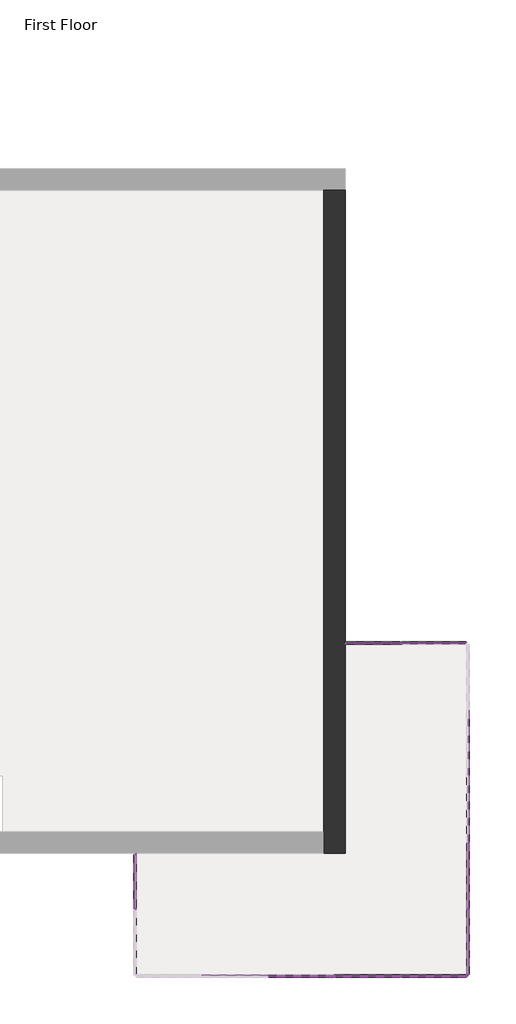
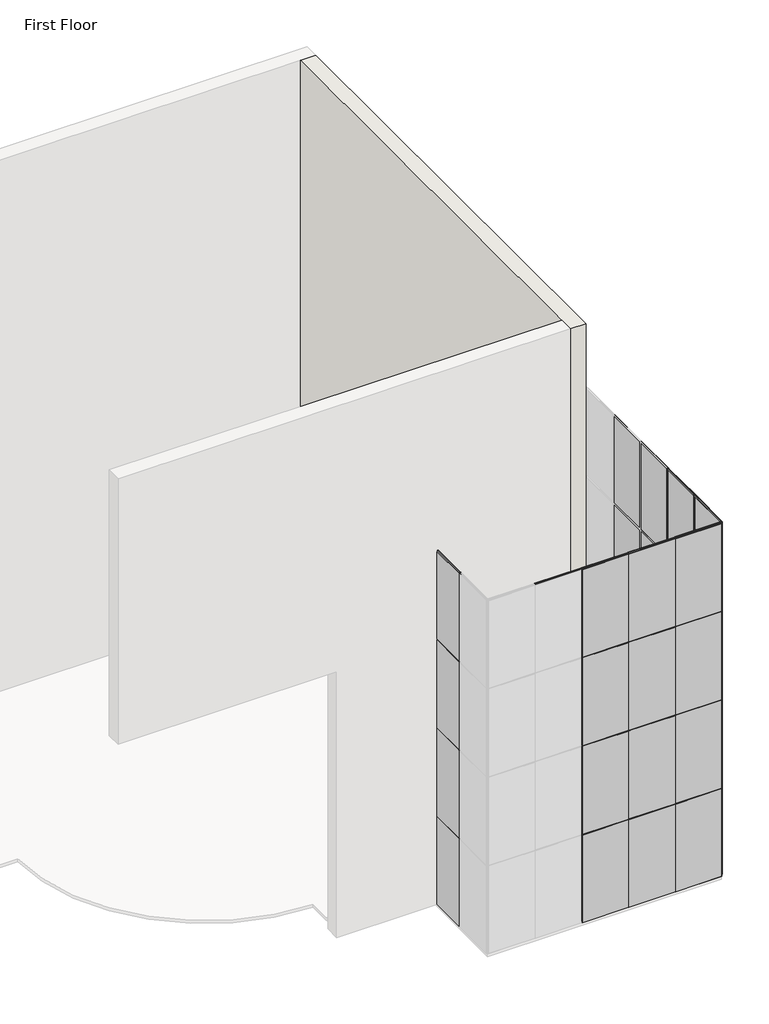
# One storey, part 2 of 4: 82 members, 40 plates, 1 wall.
"""IFC4 building model written with IfcOpenShell, lengths in millimetres."""

from ifc_helpers import new_model, si_unit, origin, place, context, project, spatial, faceted_brep, transform, mapped, element, save
from components import member_40ce1a5c, member_5e617a80, member_0d8d9af5, member_74941792, member_cbdb9076, member_7e523723, member_9fd3d903, member_6604d1e0, member_e0356dda, member_be0b070d, system_panel_glazed_9b7d687a, system_panel_glazed_3ccd4ad1, system_panel_glazed_9a901b4a, system_panel_glazed_ee91e337, system_panel_glazed_2d5e1d3d, system_panel_glazed_37964ea6, system_panel_glazed_a669fc9f, system_panel_glazed_51c864c8

model = new_model("IFC4")

# Units and contexts
model_context = context("Model", 3, world=origin())
ifc_project = project(units=[si_unit("LENGTHUNIT", "METRE", prefix="MILLI")], contexts=[model_context])

# Site, building, storey
site = spatial("IfcSite", under=ifc_project)
building = spatial("IfcBuilding", under=site)
storey = spatial("IfcBuildingStorey", under=building, Name="First Floor", Elevation=0.0)

# Members
placement = place(None, origin())
member_shape = member_40ce1a5c(model_context)
element("IfcMember", 1, ObjectType="Rectangular Mullion : 1\" Square", at=placement, inside=storey, context=model_context, shape_type="MappedRepresentation", body=[
    mapped(member_shape, transform((5418.7693843, -3733.9860776, 3048.0), x_axis=(0.0, 0.0, 1.0), y_axis=(0.0, 1.0, 0.0), z_axis=(-1.0, 0.0, 0.0))),
])
element("IfcMember", 2, ObjectType="Rectangular Mullion : 1\" Square", at=placement, inside=storey, context=model_context, shape_type="MappedRepresentation", body=[
    mapped(member_shape, transform((5418.7693843, -3733.9860776, 6096.0), x_axis=(0.0, 0.0, 1.0), y_axis=(0.0, 1.0, 0.0), z_axis=(-1.0, 0.0, 0.0))),
])
element("IfcMember", 3, ObjectType="Rectangular Mullion : 1\" Square", at=placement, inside=storey, context=model_context, shape_type="MappedRepresentation", body=[
    mapped(member_shape, transform((5418.7693843, -3733.9860776, 9144.0), x_axis=(0.0, 0.0, 1.0), y_axis=(0.0, 1.0, 0.0), z_axis=(-1.0, 0.0, 0.0))),
])
member_2_shape = member_5e617a80(model_context)
element("IfcMember", 4, ObjectType="Rectangular Mullion : 1\" Square", at=placement, inside=storey, context=model_context, shape_type="MappedRepresentation", body=[
    mapped(member_2_shape, transform((8171.4943843, -11353.9860776, 3048.0), x_axis=(0.0, 0.0, 1.0), y_axis=(0.0, -1.0, 0.0), z_axis=(1.0, 0.0, 0.0))),
])
element("IfcMember", 5, ObjectType="Rectangular Mullion : 1\" Square", at=placement, inside=storey, context=model_context, shape_type="MappedRepresentation", body=[
    mapped(member_2_shape, transform((8171.4943843, -11353.9860776, 6096.0), x_axis=(0.0, 0.0, 1.0), y_axis=(0.0, -1.0, 0.0), z_axis=(1.0, 0.0, 0.0))),
])
element("IfcMember", 6, ObjectType="Rectangular Mullion : 1\" Square", at=placement, inside=storey, context=model_context, shape_type="MappedRepresentation", body=[
    mapped(member_2_shape, transform((8171.4943843, -11353.9860776, 9144.0), x_axis=(0.0, 0.0, 1.0), y_axis=(0.0, -1.0, 0.0), z_axis=(1.0, 0.0, 0.0))),
])
element("IfcMember", 7, ObjectType="Rectangular Mullion : 1\" Square", at=placement, inside=storey, context=model_context, shape_type="MappedRepresentation", body=[
    mapped(member_2_shape, transform((8196.8943843, -9842.6860776, 3048.0), x_axis=(0.0, 0.0, 1.0), y_axis=(1.0, 0.0, 0.0), z_axis=(0.0, 1.0, 0.0))),
])
element("IfcMember", 8, ObjectType="Rectangular Mullion : 1\" Square", at=placement, inside=storey, context=model_context, shape_type="MappedRepresentation", body=[
    mapped(member_2_shape, transform((8196.8943843, -9842.6860776, 6096.0), x_axis=(0.0, 0.0, 1.0), y_axis=(1.0, 0.0, 0.0), z_axis=(0.0, 1.0, 0.0))),
])
element("IfcMember", 9, ObjectType="Rectangular Mullion : 1\" Square", at=placement, inside=storey, context=model_context, shape_type="MappedRepresentation", body=[
    mapped(member_2_shape, transform((8196.8943843, -9842.6860776, 9144.0), x_axis=(0.0, 0.0, 1.0), y_axis=(1.0, 0.0, 0.0), z_axis=(0.0, 1.0, 0.0))),
])
element("IfcMember", 10, ObjectType="Rectangular Mullion : 1\" Square", at=placement, inside=storey, context=model_context, shape_type="MappedRepresentation", body=[
    mapped(member_2_shape, transform((6685.5943843, -3733.9860776, 3048.0), x_axis=(0.0, 0.0, 1.0), y_axis=(0.0, 1.0, 0.0), z_axis=(-1.0, 0.0, 0.0))),
])
element("IfcMember", 11, ObjectType="Rectangular Mullion : 1\" Square", at=placement, inside=storey, context=model_context, shape_type="MappedRepresentation", body=[
    mapped(member_2_shape, transform((6685.5943843, -3733.9860776, 6096.0), x_axis=(0.0, 0.0, 1.0), y_axis=(0.0, 1.0, 0.0), z_axis=(-1.0, 0.0, 0.0))),
])
element("IfcMember", 12, ObjectType="Rectangular Mullion : 1\" Square", at=placement, inside=storey, context=model_context, shape_type="MappedRepresentation", body=[
    mapped(member_2_shape, transform((6685.5943843, -3733.9860776, 9144.0), x_axis=(0.0, 0.0, 1.0), y_axis=(0.0, 1.0, 0.0), z_axis=(-1.0, 0.0, 0.0))),
])
member_3_shape = member_0d8d9af5(model_context)
element("IfcMember", 13, ObjectType="Rectangular Mullion : 1\" Square", at=placement, inside=storey, context=model_context, shape_type="MappedRepresentation", body=[
    mapped(member_3_shape, transform((6660.1943843, -3733.9860776, 0.0), x_axis=(0.0, 0.0, -1.0), y_axis=(0.0, 1.0, 0.0), z_axis=(1.0, 0.0, 0.0))),
])
member_4_shape = member_74941792(model_context)
element("IfcMember", 14, ObjectType="Rectangular Mullion : 1\" Square", at=placement, inside=storey, context=model_context, shape_type="MappedRepresentation", body=[
    mapped(member_4_shape, transform((8171.4943843, -11353.9860776, 12192.0), x_axis=(0.0, 0.0, 1.0), y_axis=(0.0, -1.0, 0.0), z_axis=(1.0, 0.0, 0.0))),
])
element("IfcMember", 15, ObjectType="Rectangular Mullion : 1\" Square", at=placement, inside=storey, context=model_context, shape_type="MappedRepresentation", body=[
    mapped(member_4_shape, transform((8196.8943843, -9842.6860776, 12192.0), x_axis=(0.0, 0.0, 1.0), y_axis=(1.0, 0.0, 0.0), z_axis=(0.0, 1.0, 0.0))),
])
element("IfcMember", 16, ObjectType="Rectangular Mullion : 1\" Square", at=placement, inside=storey, context=model_context, shape_type="MappedRepresentation", body=[
    mapped(member_4_shape, transform((6685.5943843, -3733.9860776, 12192.0), x_axis=(0.0, 0.0, 1.0), y_axis=(0.0, 1.0, 0.0), z_axis=(-1.0, 0.0, 0.0))),
])
member_5_shape = member_cbdb9076(model_context)
element("IfcMember", 17, ObjectType="Rectangular Mullion : 1\" Square", at=placement, inside=storey, context=model_context, shape_type="MappedRepresentation", body=[
    mapped(member_5_shape, transform((576.8943843, -9826.8110776, 3048.0), x_axis=(0.0, -1.0, 0.0), y_axis=(-1.0, 0.0, 0.0), z_axis=(0.0, 0.0, -1.0))),
])
element("IfcMember", 18, ObjectType="Rectangular Mullion : 1\" Square", at=placement, inside=storey, context=model_context, shape_type="MappedRepresentation", body=[
    mapped(member_5_shape, transform((576.8943843, -9826.8110776, 6096.0), x_axis=(0.0, -1.0, 0.0), y_axis=(-1.0, 0.0, 0.0), z_axis=(0.0, 0.0, -1.0))),
])
element("IfcMember", 19, ObjectType="Rectangular Mullion : 1\" Square", at=placement, inside=storey, context=model_context, shape_type="MappedRepresentation", body=[
    mapped(member_5_shape, transform((5148.8943843, -11353.9860776, 3048.0), x_axis=(1.0, 0.0, 0.0), y_axis=(0.0, -1.0, 0.0), z_axis=(0.0, 0.0, -1.0))),
])
element("IfcMember", 20, ObjectType="Rectangular Mullion : 1\" Square", at=placement, inside=storey, context=model_context, shape_type="MappedRepresentation", body=[
    mapped(member_5_shape, transform((5148.8943843, -11353.9860776, 6096.0), x_axis=(1.0, 0.0, 0.0), y_axis=(0.0, -1.0, 0.0), z_axis=(0.0, 0.0, -1.0))),
])
element("IfcMember", 21, ObjectType="Rectangular Mullion : 1\" Square", at=placement, inside=storey, context=model_context, shape_type="MappedRepresentation", body=[
    mapped(member_5_shape, transform((6672.8943843, -11353.9860776, 3048.0), x_axis=(1.0, 0.0, 0.0), y_axis=(0.0, -1.0, 0.0), z_axis=(0.0, 0.0, -1.0))),
])
element("IfcMember", 22, ObjectType="Rectangular Mullion : 1\" Square", at=placement, inside=storey, context=model_context, shape_type="MappedRepresentation", body=[
    mapped(member_5_shape, transform((6672.8943843, -11353.9860776, 6096.0), x_axis=(1.0, 0.0, 0.0), y_axis=(0.0, -1.0, 0.0), z_axis=(0.0, 0.0, -1.0))),
])
element("IfcMember", 23, ObjectType="Rectangular Mullion : 1\" Square", at=placement, inside=storey, context=model_context, shape_type="MappedRepresentation", body=[
    mapped(member_5_shape, transform((8196.8943843, -8305.9860776, 6096.0), x_axis=(0.0, 1.0, 0.0), y_axis=(1.0, 0.0, 0.0), z_axis=(0.0, 0.0, -1.0))),
])
element("IfcMember", 24, ObjectType="Rectangular Mullion : 1\" Square", at=placement, inside=storey, context=model_context, shape_type="MappedRepresentation", body=[
    mapped(member_5_shape, transform((8196.8943843, -6781.9860776, 3048.0), x_axis=(0.0, 1.0, 0.0), y_axis=(1.0, 0.0, 0.0), z_axis=(0.0, 0.0, -1.0))),
])
element("IfcMember", 25, ObjectType="Rectangular Mullion : 1\" Square", at=placement, inside=storey, context=model_context, shape_type="MappedRepresentation", body=[
    mapped(member_5_shape, transform((8196.8943843, -9829.9860776, 3048.0), x_axis=(0.0, 1.0, 0.0), y_axis=(1.0, 0.0, 0.0), z_axis=(0.0, 0.0, -1.0))),
])
element("IfcMember", 26, ObjectType="Rectangular Mullion : 1\" Square", at=placement, inside=storey, context=model_context, shape_type="MappedRepresentation", body=[
    mapped(member_5_shape, transform((8196.8943843, -9829.9860776, 6096.0), x_axis=(0.0, 1.0, 0.0), y_axis=(1.0, 0.0, 0.0), z_axis=(0.0, 0.0, -1.0))),
])
element("IfcMember", 27, ObjectType="Rectangular Mullion : 1\" Square", at=placement, inside=storey, context=model_context, shape_type="MappedRepresentation", body=[
    mapped(member_5_shape, transform((8196.8943843, -8305.9860776, 3048.0), x_axis=(0.0, 1.0, 0.0), y_axis=(1.0, 0.0, 0.0), z_axis=(0.0, 0.0, -1.0))),
])
element("IfcMember", 28, ObjectType="Rectangular Mullion : 1\" Square", at=placement, inside=storey, context=model_context, shape_type="MappedRepresentation", body=[
    mapped(member_5_shape, transform((6672.8943843, -3733.9860776, 3048.0), x_axis=(-1.0, 0.0, 0.0), y_axis=(0.0, 1.0, 0.0), z_axis=(0.0, 0.0, -1.0))),
])
element("IfcMember", 29, ObjectType="Rectangular Mullion : 1\" Square", at=placement, inside=storey, context=model_context, shape_type="MappedRepresentation", body=[
    mapped(member_5_shape, transform((6672.8943843, -3733.9860776, 6096.0), x_axis=(-1.0, 0.0, 0.0), y_axis=(0.0, 1.0, 0.0), z_axis=(0.0, 0.0, -1.0))),
])
element("IfcMember", 30, ObjectType="Rectangular Mullion : 1\" Square", at=placement, inside=storey, context=model_context, shape_type="MappedRepresentation", body=[
    mapped(member_5_shape, transform((576.8943843, -9826.8110776, 9144.0), x_axis=(0.0, -1.0, 0.0), y_axis=(-1.0, 0.0, 0.0), z_axis=(0.0, 0.0, -1.0))),
])
element("IfcMember", 31, ObjectType="Rectangular Mullion : 1\" Square", at=placement, inside=storey, context=model_context, shape_type="MappedRepresentation", body=[
    mapped(member_5_shape, transform((5148.8943843, -11353.9860776, 9144.0), x_axis=(1.0, 0.0, 0.0), y_axis=(0.0, -1.0, 0.0), z_axis=(0.0, 0.0, -1.0))),
])
element("IfcMember", 32, ObjectType="Rectangular Mullion : 1\" Square", at=placement, inside=storey, context=model_context, shape_type="MappedRepresentation", body=[
    mapped(member_5_shape, transform((6672.8943843, -11353.9860776, 9144.0), x_axis=(1.0, 0.0, 0.0), y_axis=(0.0, -1.0, 0.0), z_axis=(0.0, 0.0, -1.0))),
])
element("IfcMember", 33, ObjectType="Rectangular Mullion : 1\" Square", at=placement, inside=storey, context=model_context, shape_type="MappedRepresentation", body=[
    mapped(member_5_shape, transform((8196.8943843, -8305.9860776, 9144.0), x_axis=(0.0, 1.0, 0.0), y_axis=(1.0, 0.0, 0.0), z_axis=(0.0, 0.0, -1.0))),
])
element("IfcMember", 34, ObjectType="Rectangular Mullion : 1\" Square", at=placement, inside=storey, context=model_context, shape_type="MappedRepresentation", body=[
    mapped(member_5_shape, transform((8196.8943843, -9829.9860776, 9144.0), x_axis=(0.0, 1.0, 0.0), y_axis=(1.0, 0.0, 0.0), z_axis=(0.0, 0.0, -1.0))),
])
element("IfcMember", 35, ObjectType="Rectangular Mullion : 1\" Square", at=placement, inside=storey, context=model_context, shape_type="MappedRepresentation", body=[
    mapped(member_5_shape, transform((6672.8943843, -3733.9860776, 9144.0), x_axis=(-1.0, 0.0, 0.0), y_axis=(0.0, 1.0, 0.0), z_axis=(0.0, 0.0, -1.0))),
])
element("IfcMember", 36, ObjectType="Rectangular Mullion : 1\" Square", at=placement, inside=storey, context=model_context, shape_type="MappedRepresentation", body=[
    mapped(member_5_shape, transform((576.8943843, -9826.8110776, 0.0), x_axis=(0.0, -1.0, 0.0), y_axis=(-1.0, 0.0, 0.0), z_axis=(0.0, 0.0, -1.0))),
])
element("IfcMember", 37, ObjectType="Rectangular Mullion : 1\" Square", at=placement, inside=storey, context=model_context, shape_type="MappedRepresentation", body=[
    mapped(member_5_shape, transform((6672.8943843, -11353.9860776, 0.0), x_axis=(1.0, 0.0, 0.0), y_axis=(0.0, -1.0, 0.0), z_axis=(0.0, 0.0, -1.0))),
])
element("IfcMember", 38, ObjectType="Rectangular Mullion : 1\" Square", at=placement, inside=storey, context=model_context, shape_type="MappedRepresentation", body=[
    mapped(member_5_shape, transform((5148.8943843, -11353.9860776, 0.0), x_axis=(1.0, 0.0, 0.0), y_axis=(0.0, -1.0, 0.0), z_axis=(0.0, 0.0, -1.0))),
])
element("IfcMember", 39, ObjectType="Rectangular Mullion : 1\" Square", at=placement, inside=storey, context=model_context, shape_type="MappedRepresentation", body=[
    mapped(member_5_shape, transform((8196.8943843, -9829.9860776, 0.0), x_axis=(0.0, 1.0, 0.0), y_axis=(1.0, 0.0, 0.0), z_axis=(0.0, 0.0, -1.0))),
])
element("IfcMember", 40, ObjectType="Rectangular Mullion : 1\" Square", at=placement, inside=storey, context=model_context, shape_type="MappedRepresentation", body=[
    mapped(member_5_shape, transform((8196.8943843, -8305.9860776, 0.0), x_axis=(0.0, 1.0, 0.0), y_axis=(1.0, 0.0, 0.0), z_axis=(0.0, 0.0, -1.0))),
])
element("IfcMember", 41, ObjectType="Rectangular Mullion : 1\" Square", at=placement, inside=storey, context=model_context, shape_type="MappedRepresentation", body=[
    mapped(member_5_shape, transform((6672.8943843, -3733.9860776, 0.0), x_axis=(-1.0, 0.0, 0.0), y_axis=(0.0, 1.0, 0.0), z_axis=(0.0, 0.0, -1.0))),
])
element("IfcMember", 42, ObjectType="Rectangular Mullion : 1\" Square", at=placement, inside=storey, context=model_context, shape_type="MappedRepresentation", body=[
    mapped(member_4_shape, transform((6685.5943843, -11353.9860776, 0.0), x_axis=(0.0, 0.0, -1.0), y_axis=(0.0, -1.0, 0.0), z_axis=(-1.0, 0.0, 0.0))),
])
element("IfcMember", 43, ObjectType="Rectangular Mullion : 1\" Square", at=placement, inside=storey, context=model_context, shape_type="MappedRepresentation", body=[
    mapped(member_4_shape, transform((8196.8943843, -11328.5860776, 0.0), x_axis=(0.0, 0.0, -1.0), y_axis=(1.0, 0.0, 0.0), z_axis=(0.0, -1.0, 0.0))),
])
element("IfcMember", 44, ObjectType="Rectangular Mullion : 1\" Square", at=placement, inside=storey, context=model_context, shape_type="MappedRepresentation", body=[
    mapped(member_3_shape, transform((5418.7693843, -3733.9860776, 12192.0), x_axis=(0.0, 0.0, 1.0), y_axis=(0.0, 1.0, 0.0), z_axis=(-1.0, 0.0, 0.0))),
])
member_6_shape = member_7e523723(model_context)
element("IfcMember", 45, ObjectType="Rectangular Mullion : 1\" Square", at=placement, inside=storey, context=model_context, shape_type="MappedRepresentation", body=[
    mapped(member_6_shape, transform((576.8943843, -8550.4610776, 12192.0), x_axis=(0.0, 1.0, 0.0), y_axis=(-1.0, 0.0, 0.0), z_axis=(0.0, 0.0, 1.0))),
])
element("IfcMember", 46, ObjectType="Rectangular Mullion : 1\" Square", at=placement, inside=storey, context=model_context, shape_type="MappedRepresentation", body=[
    mapped(member_6_shape, transform((8196.8943843, -11353.9860776, 12192.0), x_axis=(0.0, -1.0, 0.0), y_axis=(1.0, 0.0, 0.0), z_axis=(0.0, 0.0, 1.0))),
])
element("IfcMember", 47, ObjectType="Rectangular Mullion : 1\" Square", at=placement, inside=storey, context=model_context, shape_type="MappedRepresentation", body=[
    mapped(member_6_shape, transform((8196.8943843, -11353.9860776, 3048.0), x_axis=(1.0, 0.0, 0.0), y_axis=(0.0, -1.0, 0.0), z_axis=(0.0, 0.0, -1.0))),
])
element("IfcMember", 48, ObjectType="Rectangular Mullion : 1\" Square", at=placement, inside=storey, context=model_context, shape_type="MappedRepresentation", body=[
    mapped(member_6_shape, transform((8196.8943843, -11353.9860776, 6096.0), x_axis=(1.0, 0.0, 0.0), y_axis=(0.0, -1.0, 0.0), z_axis=(0.0, 0.0, -1.0))),
])
element("IfcMember", 49, ObjectType="Rectangular Mullion : 1\" Square", at=placement, inside=storey, context=model_context, shape_type="MappedRepresentation", body=[
    mapped(member_6_shape, transform((5393.3693843, -3733.9860776, 3048.0), x_axis=(-1.0, 0.0, 0.0), y_axis=(0.0, 1.0, 0.0), z_axis=(0.0, 0.0, -1.0))),
])
element("IfcMember", 50, ObjectType="Rectangular Mullion : 1\" Square", at=placement, inside=storey, context=model_context, shape_type="MappedRepresentation", body=[
    mapped(member_6_shape, transform((5393.3693843, -3733.9860776, 6096.0), x_axis=(-1.0, 0.0, 0.0), y_axis=(0.0, 1.0, 0.0), z_axis=(0.0, 0.0, -1.0))),
])
element("IfcMember", 51, ObjectType="Rectangular Mullion : 1\" Square", at=placement, inside=storey, context=model_context, shape_type="MappedRepresentation", body=[
    mapped(member_6_shape, transform((8196.8943843, -11353.9860776, 9144.0), x_axis=(1.0, 0.0, 0.0), y_axis=(0.0, -1.0, 0.0), z_axis=(0.0, 0.0, -1.0))),
])
element("IfcMember", 52, ObjectType="Rectangular Mullion : 1\" Square", at=placement, inside=storey, context=model_context, shape_type="MappedRepresentation", body=[
    mapped(member_6_shape, transform((5393.3693843, -3733.9860776, 9144.0), x_axis=(-1.0, 0.0, 0.0), y_axis=(0.0, 1.0, 0.0), z_axis=(0.0, 0.0, -1.0))),
])
element("IfcMember", 53, ObjectType="Rectangular Mullion : 1\" Square", at=placement, inside=storey, context=model_context, shape_type="MappedRepresentation", body=[
    mapped(member_6_shape, transform((576.8943843, -8550.4610776, 3048.0), x_axis=(0.0, 1.0, 0.0), y_axis=(-1.0, 0.0, 0.0), z_axis=(0.0, 0.0, 1.0))),
])
element("IfcMember", 54, ObjectType="Rectangular Mullion : 1\" Square", at=placement, inside=storey, context=model_context, shape_type="MappedRepresentation", body=[
    mapped(member_6_shape, transform((8196.8943843, -11353.9860776, 3048.0), x_axis=(0.0, -1.0, 0.0), y_axis=(1.0, 0.0, 0.0), z_axis=(0.0, 0.0, 1.0))),
])
element("IfcMember", 55, ObjectType="Rectangular Mullion : 1\" Square", at=placement, inside=storey, context=model_context, shape_type="MappedRepresentation", body=[
    mapped(member_6_shape, transform((576.8943843, -8550.4610776, 6096.0), x_axis=(0.0, 1.0, 0.0), y_axis=(-1.0, 0.0, 0.0), z_axis=(0.0, 0.0, 1.0))),
])
element("IfcMember", 56, ObjectType="Rectangular Mullion : 1\" Square", at=placement, inside=storey, context=model_context, shape_type="MappedRepresentation", body=[
    mapped(member_6_shape, transform((576.8943843, -8550.4610776, 9144.0), x_axis=(0.0, 1.0, 0.0), y_axis=(-1.0, 0.0, 0.0), z_axis=(0.0, 0.0, 1.0))),
])
element("IfcMember", 57, ObjectType="Rectangular Mullion : 1\" Square", at=placement, inside=storey, context=model_context, shape_type="MappedRepresentation", body=[
    mapped(member_6_shape, transform((8196.8943843, -11353.9860776, 6096.0), x_axis=(0.0, -1.0, 0.0), y_axis=(1.0, 0.0, 0.0), z_axis=(0.0, 0.0, 1.0))),
])
element("IfcMember", 58, ObjectType="Rectangular Mullion : 1\" Square", at=placement, inside=storey, context=model_context, shape_type="MappedRepresentation", body=[
    mapped(member_6_shape, transform((8196.8943843, -11353.9860776, 9144.0), x_axis=(0.0, -1.0, 0.0), y_axis=(1.0, 0.0, 0.0), z_axis=(0.0, 0.0, 1.0))),
])
element("IfcMember", 59, ObjectType="Rectangular Mullion : 1\" Square", at=placement, inside=storey, context=model_context, shape_type="MappedRepresentation", body=[
    mapped(member_6_shape, transform((8196.8943843, -11353.9860776, 0.0), x_axis=(1.0, 0.0, 0.0), y_axis=(0.0, -1.0, 0.0), z_axis=(0.0, 0.0, -1.0))),
])
element("IfcMember", 60, ObjectType="Rectangular Mullion : 1\" Square", at=placement, inside=storey, context=model_context, shape_type="MappedRepresentation", body=[
    mapped(member_6_shape, transform((5393.3693843, -3733.9860776, 0.0), x_axis=(-1.0, 0.0, 0.0), y_axis=(0.0, 1.0, 0.0), z_axis=(0.0, 0.0, -1.0))),
])
member_7_shape = member_9fd3d903(model_context)
element("IfcMember", 61, ObjectType="Rectangular Mullion : 1\" Square", at=placement, inside=storey, context=model_context, shape_type="MappedRepresentation", body=[
    mapped(member_7_shape, transform((5136.1943843, -11353.9860776, 3048.0), x_axis=(0.0, 0.0, 1.0), y_axis=(0.0, -1.0, 0.0), z_axis=(1.0, 0.0, 0.0))),
])
element("IfcMember", 62, ObjectType="Rectangular Mullion : 1\" Square", at=placement, inside=storey, context=model_context, shape_type="MappedRepresentation", body=[
    mapped(member_7_shape, transform((6660.1943843, -11353.9860776, 3048.0), x_axis=(0.0, 0.0, 1.0), y_axis=(0.0, -1.0, 0.0), z_axis=(1.0, 0.0, 0.0))),
])
element("IfcMember", 63, ObjectType="Rectangular Mullion : 1\" Square", at=placement, inside=storey, context=model_context, shape_type="MappedRepresentation", body=[
    mapped(member_7_shape, transform((5136.1943843, -11353.9860776, 6096.0), x_axis=(0.0, 0.0, 1.0), y_axis=(0.0, -1.0, 0.0), z_axis=(0.9999999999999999, 0.0, 0.0))),
])
element("IfcMember", 64, ObjectType="Rectangular Mullion : 1\" Square", at=placement, inside=storey, context=model_context, shape_type="MappedRepresentation", body=[
    mapped(member_7_shape, transform((6660.1943843, -11353.9860776, 6096.0), x_axis=(0.0, 0.0, 1.0), y_axis=(0.0, -1.0, 0.0), z_axis=(1.0, 0.0, 0.0))),
])
element("IfcMember", 65, ObjectType="Rectangular Mullion : 1\" Square", at=placement, inside=storey, context=model_context, shape_type="MappedRepresentation", body=[
    mapped(member_7_shape, transform((5136.1943843, -11353.9860776, 9144.0), x_axis=(0.0, 0.0, 1.0), y_axis=(0.0, -1.0, 0.0), z_axis=(1.0, 0.0, 0.0))),
])
element("IfcMember", 66, ObjectType="Rectangular Mullion : 1\" Square", at=placement, inside=storey, context=model_context, shape_type="MappedRepresentation", body=[
    mapped(member_7_shape, transform((6660.1943843, -11353.9860776, 9144.0), x_axis=(0.0, 0.0, 1.0), y_axis=(0.0, -1.0, 0.0), z_axis=(1.0, 0.0, 0.0))),
])
element("IfcMember", 67, ObjectType="Rectangular Mullion : 1\" Square", at=placement, inside=storey, context=model_context, shape_type="MappedRepresentation", body=[
    mapped(member_7_shape, transform((8196.8943843, -8318.6860776, 3048.0), x_axis=(0.0, 0.0, 1.0), y_axis=(1.0, 0.0, 0.0), z_axis=(0.0, 1.0, 0.0))),
])
element("IfcMember", 68, ObjectType="Rectangular Mullion : 1\" Square", at=placement, inside=storey, context=model_context, shape_type="MappedRepresentation", body=[
    mapped(member_7_shape, transform((8196.8943843, -8318.6860776, 6096.0), x_axis=(0.0, 0.0, 1.0), y_axis=(1.0, 0.0, 0.0), z_axis=(0.0, 1.0, 0.0))),
])
element("IfcMember", 69, ObjectType="Rectangular Mullion : 1\" Square", at=placement, inside=storey, context=model_context, shape_type="MappedRepresentation", body=[
    mapped(member_7_shape, transform((8196.8943843, -8318.6860776, 9144.0), x_axis=(0.0, 0.0, 1.0), y_axis=(1.0, 0.0, 0.0), z_axis=(0.0, 1.0, 0.0))),
])
member_8_shape = member_6604d1e0(model_context)
element("IfcMember", 70, ObjectType="Rectangular Mullion : 1\" Square", at=placement, inside=storey, context=model_context, shape_type="MappedRepresentation", body=[
    mapped(member_8_shape, transform((6660.1943843, -11353.9860776, 12192.0), x_axis=(0.0, 0.0, 1.0), y_axis=(0.0, -1.0, 0.0), z_axis=(1.0, 0.0, 0.0))),
])
element("IfcMember", 71, ObjectType="Rectangular Mullion : 1\" Square", at=placement, inside=storey, context=model_context, shape_type="MappedRepresentation", body=[
    mapped(member_8_shape, transform((3612.1943843, -11353.9860776, 12192.0), x_axis=(0.0, 0.0, 1.0), y_axis=(0.0, -1.0, 0.0), z_axis=(1.0, 0.0, 0.0))),
])
element("IfcMember", 72, ObjectType="Rectangular Mullion : 1\" Square", at=placement, inside=storey, context=model_context, shape_type="MappedRepresentation", body=[
    mapped(member_8_shape, transform((5136.1943843, -11353.9860776, 12192.0), x_axis=(0.0, 0.0, 1.0), y_axis=(0.0, -1.0, 0.0), z_axis=(1.0, 0.0, 0.0))),
])
element("IfcMember", 73, ObjectType="Rectangular Mullion : 1\" Square", at=placement, inside=storey, context=model_context, shape_type="MappedRepresentation", body=[
    mapped(member_8_shape, transform((8196.8943843, -8318.6860776, 12192.0), x_axis=(0.0, 0.0, 1.0), y_axis=(1.0, 0.0, 0.0), z_axis=(0.0, 1.0, 0.0))),
])
element("IfcMember", 74, ObjectType="Rectangular Mullion : 1\" Square", at=placement, inside=storey, context=model_context, shape_type="MappedRepresentation", body=[
    mapped(member_8_shape, transform((576.8943843, -9839.5110776, 0.0), x_axis=(0.0, 0.0, -1.0), y_axis=(-1.0, 0.0, 0.0), z_axis=(0.0, 1.0, 0.0))),
])
element("IfcMember", 75, ObjectType="Rectangular Mullion : 1\" Square", at=placement, inside=storey, context=model_context, shape_type="MappedRepresentation", body=[
    mapped(member_8_shape, transform((5161.5943843, -11353.9860776, 0.0), x_axis=(0.0, 0.0, -1.0), y_axis=(0.0, -1.0, 0.0), z_axis=(-1.0, 0.0, 0.0))),
])
element("IfcMember", 76, ObjectType="Rectangular Mullion : 1\" Square", at=placement, inside=storey, context=model_context, shape_type="MappedRepresentation", body=[
    mapped(member_8_shape, transform((8196.8943843, -9817.2860776, 0.0), x_axis=(0.0, 0.0, -1.0), y_axis=(1.0, 0.0, 0.0), z_axis=(0.0, -1.0, 0.0))),
])
element("IfcMember", 77, ObjectType="Rectangular Mullion : 1\" Square", at=placement, inside=storey, context=model_context, shape_type="MappedRepresentation", body=[
    mapped(member_8_shape, transform((8196.8943843, -8293.2860776, 0.0), x_axis=(0.0, 0.0, -1.0), y_axis=(1.0, 0.0, 0.0), z_axis=(0.0, -1.0, 0.0))),
])
member_9_shape = member_e0356dda(model_context)
element("IfcMember", 78, ObjectType="Rectangular Mullion : 1\" Square", at=placement, inside=storey, context=model_context, shape_type="MappedRepresentation", body=[
    mapped(member_9_shape, transform((576.8943843, -9814.1110776, 3048.0), x_axis=(0.0, 0.0, 1.0), y_axis=(-1.0, 0.0, 0.0), z_axis=(0.0, -1.0, 0.0))),
])
element("IfcMember", 79, ObjectType="Rectangular Mullion : 1\" Square", at=placement, inside=storey, context=model_context, shape_type="MappedRepresentation", body=[
    mapped(member_9_shape, transform((576.8943843, -9814.1110776, 6096.0), x_axis=(0.0, 0.0, 1.0), y_axis=(-1.0, 0.0, 0.0), z_axis=(0.0, -1.0, 0.0))),
])
element("IfcMember", 80, ObjectType="Rectangular Mullion : 1\" Square", at=placement, inside=storey, context=model_context, shape_type="MappedRepresentation", body=[
    mapped(member_9_shape, transform((576.8943843, -9814.1110776, 9144.0), x_axis=(0.0, 0.0, 1.0), y_axis=(-1.0, 0.0, 0.0), z_axis=(0.0, -1.0, 0.0))),
])
member_10_shape = member_be0b070d(model_context)
element("IfcMember", 81, ObjectType="Rectangular Mullion : 1\" Square", at=placement, inside=storey, context=model_context, shape_type="MappedRepresentation", body=[
    mapped(member_10_shape, transform((576.8943843, -9814.1110776, 12192.0), x_axis=(0.0, 0.0, 1.0), y_axis=(-1.0, 0.0, 0.0), z_axis=(0.0, -1.0, 0.0))),
])
element("IfcMember", 82, ObjectType="Rectangular Mullion : 1\" Square", at=placement, inside=storey, context=model_context, shape_type="MappedRepresentation", body=[
    mapped(member_10_shape, transform((576.8943843, -8575.8610776, 0.0), x_axis=(0.0, 0.0, -1.0), y_axis=(-1.0, 0.0, 0.0), z_axis=(0.0, 1.0, 0.0))),
])

# Plates
system_panel_glazed_shape = system_panel_glazed_9b7d687a(model_context)
element("IfcPlate", 83, ObjectType="System Panel : Glazed", at=placement, inside=storey, context=model_context, shape_type="MappedRepresentation", body=[
    mapped(system_panel_glazed_shape, transform((7428.5443843, -11353.9860776, 25.4), x_axis=(1.0, 0.0, 0.0), y_axis=(0.0, 1.0, 0.0), z_axis=(0.0, 0.0, 1.0))),
])
element("IfcPlate", 84, ObjectType="System Panel : Glazed", at=placement, inside=storey, context=model_context, shape_type="MappedRepresentation", body=[
    mapped(system_panel_glazed_shape, transform((7428.5443843, -11353.9860776, 9156.7), x_axis=(1.0, 0.0, 0.0), y_axis=(0.0, 1.0, 0.0), z_axis=(0.0, 0.0, 1.0))),
])
element("IfcPlate", 85, ObjectType="System Panel : Glazed", at=placement, inside=storey, context=model_context, shape_type="MappedRepresentation", body=[
    mapped(system_panel_glazed_shape, transform((8196.8943843, -10585.6360776, 25.4), x_axis=(0.0, 1.0, 0.0), y_axis=(-1.0, 0.0, 0.0), z_axis=(0.0, 0.0, 1.0))),
])
element("IfcPlate", 86, ObjectType="System Panel : Glazed", at=placement, inside=storey, context=model_context, shape_type="MappedRepresentation", body=[
    mapped(system_panel_glazed_shape, transform((8196.8943843, -10585.6360776, 9156.7), x_axis=(0.0, 1.0, 0.0), y_axis=(-1.0, 0.0, 0.0), z_axis=(0.0, 0.0, 1.0))),
])
element("IfcPlate", 87, ObjectType="System Panel : Glazed", at=placement, inside=storey, context=model_context, shape_type="MappedRepresentation", body=[
    mapped(system_panel_glazed_shape, transform((7428.5443843, -3733.9860776, 25.4), x_axis=(-1.0, 0.0, 0.0), y_axis=(0.0, -1.0, 0.0), z_axis=(0.0, 0.0, 1.0))),
])
element("IfcPlate", 88, ObjectType="System Panel : Glazed", at=placement, inside=storey, context=model_context, shape_type="MappedRepresentation", body=[
    mapped(system_panel_glazed_shape, transform((7428.5443843, -3733.9860776, 9156.7), x_axis=(-1.0, 0.0, 0.0), y_axis=(0.0, -1.0, 0.0), z_axis=(0.0, 0.0, 1.0))),
])
system_panel_glazed_2_shape = system_panel_glazed_3ccd4ad1(model_context)
element("IfcPlate", 89, ObjectType="System Panel : Glazed", at=placement, inside=storey, context=model_context, shape_type="MappedRepresentation", body=[
    mapped(system_panel_glazed_2_shape, transform((6039.4818843, -3733.9860776, 25.4), x_axis=(-1.0, 0.0, 0.0), y_axis=(0.0, -1.0, 0.0), z_axis=(0.0, 0.0, 1.0))),
])
element("IfcPlate", 90, ObjectType="System Panel : Glazed", at=placement, inside=storey, context=model_context, shape_type="MappedRepresentation", body=[
    mapped(system_panel_glazed_2_shape, transform((6039.4818843, -3733.9860776, 9156.7), x_axis=(-1.0, 0.0, 0.0), y_axis=(0.0, -1.0, 0.0), z_axis=(0.0, 0.0, 1.0))),
])
system_panel_glazed_3_shape = system_panel_glazed_9a901b4a(model_context)
element("IfcPlate", 91, ObjectType="System Panel : Glazed", at=placement, inside=storey, context=model_context, shape_type="MappedRepresentation", body=[
    mapped(system_panel_glazed_3_shape, transform((7428.5443843, -11353.9860776, 3060.7), x_axis=(1.0, 0.0, 0.0), y_axis=(0.0, 1.0, 0.0), z_axis=(0.0, 0.0, 1.0))),
])
element("IfcPlate", 92, ObjectType="System Panel : Glazed", at=placement, inside=storey, context=model_context, shape_type="MappedRepresentation", body=[
    mapped(system_panel_glazed_3_shape, transform((7428.5443843, -11353.9860776, 6108.7), x_axis=(1.0, 0.0, 0.0), y_axis=(0.0, 1.0, 0.0), z_axis=(0.0, 0.0, 1.0))),
])
element("IfcPlate", 93, ObjectType="System Panel : Glazed", at=placement, inside=storey, context=model_context, shape_type="MappedRepresentation", body=[
    mapped(system_panel_glazed_3_shape, transform((8196.8943843, -10585.6360776, 3060.7), x_axis=(0.0, 1.0, 0.0), y_axis=(-1.0, 0.0, 0.0), z_axis=(0.0, 0.0, 1.0))),
])
element("IfcPlate", 94, ObjectType="System Panel : Glazed", at=placement, inside=storey, context=model_context, shape_type="MappedRepresentation", body=[
    mapped(system_panel_glazed_3_shape, transform((8196.8943843, -10585.6360776, 6108.7), x_axis=(0.0, 1.0, 0.0), y_axis=(-1.0, 0.0, 0.0), z_axis=(0.0, 0.0, 1.0))),
])
element("IfcPlate", 95, ObjectType="System Panel : Glazed", at=placement, inside=storey, context=model_context, shape_type="MappedRepresentation", body=[
    mapped(system_panel_glazed_3_shape, transform((7428.5443843, -3733.9860776, 3060.7), x_axis=(-1.0, 0.0, 0.0), y_axis=(0.0, -1.0, 0.0), z_axis=(0.0, 0.0, 1.0))),
])
element("IfcPlate", 96, ObjectType="System Panel : Glazed", at=placement, inside=storey, context=model_context, shape_type="MappedRepresentation", body=[
    mapped(system_panel_glazed_3_shape, transform((7428.5443843, -3733.9860776, 6108.7), x_axis=(-1.0, 0.0, 0.0), y_axis=(0.0, -1.0, 0.0), z_axis=(0.0, 0.0, 1.0))),
])
system_panel_glazed_4_shape = system_panel_glazed_ee91e337(model_context)
element("IfcPlate", 97, ObjectType="System Panel : Glazed", at=placement, inside=storey, context=model_context, shape_type="MappedRepresentation", body=[
    mapped(system_panel_glazed_4_shape, transform((6039.4818843, -3733.9860776, 3060.7), x_axis=(-1.0, 0.0, 0.0), y_axis=(0.0, -1.0, 0.0), z_axis=(0.0, 0.0, 1.0))),
])
element("IfcPlate", 98, ObjectType="System Panel : Glazed", at=placement, inside=storey, context=model_context, shape_type="MappedRepresentation", body=[
    mapped(system_panel_glazed_4_shape, transform((6039.4818843, -3733.9860776, 6108.7), x_axis=(-1.0, 0.0, 0.0), y_axis=(0.0, -1.0, 0.0), z_axis=(0.0, 0.0, 1.0))),
])
system_panel_glazed_5_shape = system_panel_glazed_2d5e1d3d(model_context)
element("IfcPlate", 99, ObjectType="System Panel : Glazed", at=placement, inside=storey, context=model_context, shape_type="MappedRepresentation", body=[
    mapped(system_panel_glazed_5_shape, transform((4386.8943843, -11353.9860776, 25.4), x_axis=(1.0, 0.0, 0.0), y_axis=(0.0, 1.0, 0.0), z_axis=(0.0, 0.0, 1.0))),
])
element("IfcPlate", 100, ObjectType="System Panel : Glazed", at=placement, inside=storey, context=model_context, shape_type="MappedRepresentation", body=[
    mapped(system_panel_glazed_5_shape, transform((5910.8943843, -11353.9860776, 25.4), x_axis=(1.0, 0.0, 0.0), y_axis=(0.0, 1.0, 0.0), z_axis=(0.0, 0.0, 1.0))),
])
element("IfcPlate", 101, ObjectType="System Panel : Glazed", at=placement, inside=storey, context=model_context, shape_type="MappedRepresentation", body=[
    mapped(system_panel_glazed_5_shape, transform((4386.8943843, -11353.9860776, 9156.7), x_axis=(1.0, 0.0, 0.0), y_axis=(0.0, 1.0, 0.0), z_axis=(0.0, 0.0, 1.0))),
])
element("IfcPlate", 102, ObjectType="System Panel : Glazed", at=placement, inside=storey, context=model_context, shape_type="MappedRepresentation", body=[
    mapped(system_panel_glazed_5_shape, transform((5910.8943843, -11353.9860776, 9156.7), x_axis=(1.0, 0.0, 0.0), y_axis=(0.0, 1.0, 0.0), z_axis=(0.0, 0.0, 1.0))),
])
element("IfcPlate", 103, ObjectType="System Panel : Glazed", at=placement, inside=storey, context=model_context, shape_type="MappedRepresentation", body=[
    mapped(system_panel_glazed_5_shape, transform((8196.8943843, -9067.9860776, 25.4), x_axis=(0.0, 1.0, 0.0), y_axis=(-1.0, 0.0, 0.0), z_axis=(0.0, 0.0, 1.0))),
])
element("IfcPlate", 104, ObjectType="System Panel : Glazed", at=placement, inside=storey, context=model_context, shape_type="MappedRepresentation", body=[
    mapped(system_panel_glazed_5_shape, transform((8196.8943843, -7543.9860776, 25.4), x_axis=(0.0, 1.0, 0.0), y_axis=(-1.0, 0.0, 0.0), z_axis=(0.0, 0.0, 1.0))),
])
element("IfcPlate", 105, ObjectType="System Panel : Glazed", at=placement, inside=storey, context=model_context, shape_type="MappedRepresentation", body=[
    mapped(system_panel_glazed_5_shape, transform((8196.8943843, -6019.9860776, 25.4), x_axis=(0.0, 1.0, 0.0), y_axis=(-1.0, 0.0, 0.0), z_axis=(0.0, 0.0, 1.0))),
])
element("IfcPlate", 106, ObjectType="System Panel : Glazed", at=placement, inside=storey, context=model_context, shape_type="MappedRepresentation", body=[
    mapped(system_panel_glazed_5_shape, transform((8196.8943843, -9067.9860776, 9156.7), x_axis=(0.0, 1.0, 0.0), y_axis=(-1.0, 0.0, 0.0), z_axis=(0.0, 0.0, 1.0))),
])
element("IfcPlate", 107, ObjectType="System Panel : Glazed", at=placement, inside=storey, context=model_context, shape_type="MappedRepresentation", body=[
    mapped(system_panel_glazed_5_shape, transform((8196.8943843, -7543.9860776, 9156.7), x_axis=(0.0, 1.0, 0.0), y_axis=(-1.0, 0.0, 0.0), z_axis=(0.0, 0.0, 1.0))),
])
element("IfcPlate", 108, ObjectType="System Panel : Glazed", at=placement, inside=storey, context=model_context, shape_type="MappedRepresentation", body=[
    mapped(system_panel_glazed_5_shape, transform((8196.8943843, -6019.9860776, 9156.7), x_axis=(0.0, 1.0, 0.0), y_axis=(-1.0, 0.0, 0.0), z_axis=(0.0, 0.0, 1.0))),
])
system_panel_glazed_6_shape = system_panel_glazed_37964ea6(model_context)
element("IfcPlate", 109, ObjectType="System Panel : Glazed", at=placement, inside=storey, context=model_context, shape_type="MappedRepresentation", body=[
    mapped(system_panel_glazed_6_shape, transform((4386.8943843, -11353.9860776, 3060.7), x_axis=(1.0, 0.0, 0.0), y_axis=(0.0, 1.0, 0.0), z_axis=(0.0, 0.0, 1.0))),
])
element("IfcPlate", 110, ObjectType="System Panel : Glazed", at=placement, inside=storey, context=model_context, shape_type="MappedRepresentation", body=[
    mapped(system_panel_glazed_6_shape, transform((5910.8943843, -11353.9860776, 3060.7), x_axis=(1.0, 0.0, 0.0), y_axis=(0.0, 1.0, 0.0), z_axis=(0.0, 0.0, 1.0))),
])
element("IfcPlate", 111, ObjectType="System Panel : Glazed", at=placement, inside=storey, context=model_context, shape_type="MappedRepresentation", body=[
    mapped(system_panel_glazed_6_shape, transform((4386.8943843, -11353.9860776, 6108.7), x_axis=(1.0, 0.0, 0.0), y_axis=(0.0, 1.0, 0.0), z_axis=(0.0, 0.0, 1.0))),
])
element("IfcPlate", 112, ObjectType="System Panel : Glazed", at=placement, inside=storey, context=model_context, shape_type="MappedRepresentation", body=[
    mapped(system_panel_glazed_6_shape, transform((5910.8943843, -11353.9860776, 6108.7), x_axis=(1.0, 0.0, 0.0), y_axis=(0.0, 1.0, 0.0), z_axis=(0.0, 0.0, 1.0))),
])
element("IfcPlate", 113, ObjectType="System Panel : Glazed", at=placement, inside=storey, context=model_context, shape_type="MappedRepresentation", body=[
    mapped(system_panel_glazed_6_shape, transform((8196.8943843, -9067.9860776, 3060.7), x_axis=(0.0, 1.0, 0.0), y_axis=(-1.0, 0.0, 0.0), z_axis=(0.0, 0.0, 1.0))),
])
element("IfcPlate", 114, ObjectType="System Panel : Glazed", at=placement, inside=storey, context=model_context, shape_type="MappedRepresentation", body=[
    mapped(system_panel_glazed_6_shape, transform((8196.8943843, -7543.9860776, 3060.7), x_axis=(0.0, 1.0, 0.0), y_axis=(-1.0, 0.0, 0.0), z_axis=(0.0, 0.0, 1.0))),
])
element("IfcPlate", 115, ObjectType="System Panel : Glazed", at=placement, inside=storey, context=model_context, shape_type="MappedRepresentation", body=[
    mapped(system_panel_glazed_6_shape, transform((8196.8943843, -6019.9860776, 3060.7), x_axis=(0.0, 1.0, 0.0), y_axis=(-1.0, 0.0, 0.0), z_axis=(0.0, 0.0, 1.0))),
])
element("IfcPlate", 116, ObjectType="System Panel : Glazed", at=placement, inside=storey, context=model_context, shape_type="MappedRepresentation", body=[
    mapped(system_panel_glazed_6_shape, transform((8196.8943843, -9067.9860776, 6108.7), x_axis=(0.0, 1.0, 0.0), y_axis=(-1.0, 0.0, 0.0), z_axis=(0.0, 0.0, 1.0))),
])
element("IfcPlate", 117, ObjectType="System Panel : Glazed", at=placement, inside=storey, context=model_context, shape_type="MappedRepresentation", body=[
    mapped(system_panel_glazed_6_shape, transform((8196.8943843, -7543.9860776, 6108.7), x_axis=(0.0, 1.0, 0.0), y_axis=(-1.0, 0.0, 0.0), z_axis=(0.0, 0.0, 1.0))),
])
element("IfcPlate", 118, ObjectType="System Panel : Glazed", at=placement, inside=storey, context=model_context, shape_type="MappedRepresentation", body=[
    mapped(system_panel_glazed_6_shape, transform((8196.8943843, -6019.9860776, 6108.7), x_axis=(0.0, 1.0, 0.0), y_axis=(-1.0, 0.0, 0.0), z_axis=(0.0, 0.0, 1.0))),
])
system_panel_glazed_7_shape = system_panel_glazed_a669fc9f(model_context)
element("IfcPlate", 119, ObjectType="System Panel : Glazed", at=placement, inside=storey, context=model_context, shape_type="MappedRepresentation", body=[
    mapped(system_panel_glazed_7_shape, transform((576.8943843, -9194.9860776, 25.4), x_axis=(0.0, -1.0, 0.0), y_axis=(1.0, 0.0, 0.0), z_axis=(0.0, 0.0, 1.0))),
])
element("IfcPlate", 120, ObjectType="System Panel : Glazed", at=placement, inside=storey, context=model_context, shape_type="MappedRepresentation", body=[
    mapped(system_panel_glazed_7_shape, transform((576.8943843, -9194.9860776, 9156.7), x_axis=(0.0, -1.0, 0.0), y_axis=(1.0, 0.0, 0.0), z_axis=(0.0, 0.0, 1.0))),
])
system_panel_glazed_8_shape = system_panel_glazed_51c864c8(model_context)
element("IfcPlate", 121, ObjectType="System Panel : Glazed", at=placement, inside=storey, context=model_context, shape_type="MappedRepresentation", body=[
    mapped(system_panel_glazed_8_shape, transform((576.8943843, -9194.9860776, 3060.7), x_axis=(0.0, -1.0, 0.0), y_axis=(1.0, 0.0, 0.0), z_axis=(0.0, 0.0, 1.0))),
])
element("IfcPlate", 122, ObjectType="System Panel : Glazed", at=placement, inside=storey, context=model_context, shape_type="MappedRepresentation", body=[
    mapped(system_panel_glazed_8_shape, transform((576.8943843, -9194.9860776, 6108.7), x_axis=(0.0, -1.0, 0.0), y_axis=(1.0, 0.0, 0.0), z_axis=(0.0, 0.0, 1.0))),
])

# Wall
element("IfcWall", 123, ObjectType="Exterior - Brick on CMU", at=placement, inside=storey, context=model_context, shape_type="Brep", body=[
    faceted_brep([(5393.3693843, -8550.4610776, 0.0), (5393.3693843, 6683.1889224, 0.0), (5393.3693843, 6683.1889224, 18288.0), (5393.3693843, -8550.4610776, 18288.0), (4898.0693843, -8550.4610776, 0.0), (4898.0693843, -8550.4610776, 18288.0), (4898.0693843, -8055.1610776, 18288.0), (4898.0693843, 6683.1889224, 18288.0), (4898.0693843, 6683.1889224, 0.0), (4898.0693843, -8055.1610776, 0.0)], [[[0, 1, 2, 3]], [[4, 5, 6, 7, 8, 9]], [[1, 0, 4, 9, 8]], [[3, 2, 7, 6, 5]], [[0, 3, 5, 4]], [[2, 1, 8, 7]]]),
])

save(model, "model.ifc")
